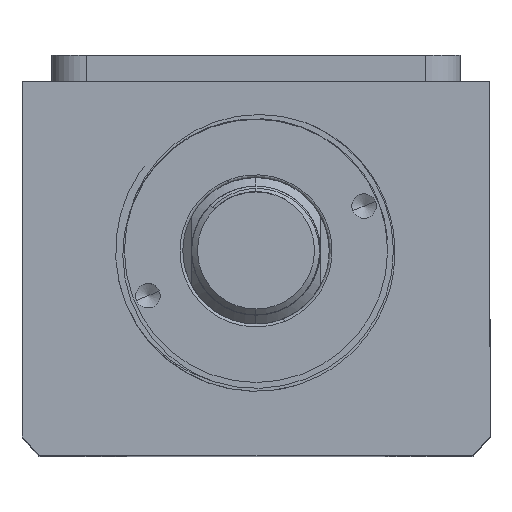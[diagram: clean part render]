
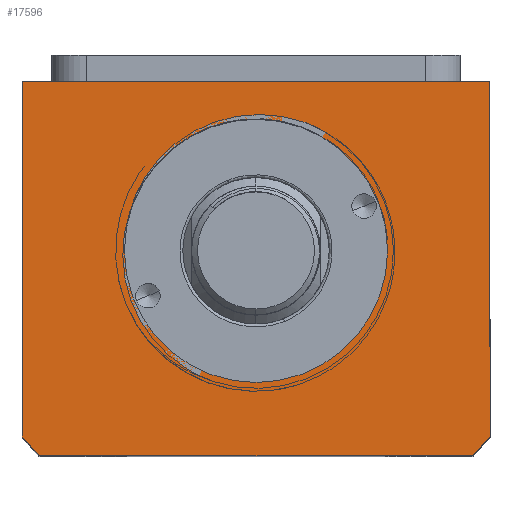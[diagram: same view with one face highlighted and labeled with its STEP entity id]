
A CAD part, top view. The second image highlights one B-rep face of the part: STEP entity #17596.
In plain terms, the highlighted planar face has unit normal (0, 0, 1).
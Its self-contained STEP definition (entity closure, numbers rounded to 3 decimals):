
#659 = EDGE_CURVE ( 'NONE', #3478, #10222, #12440, .T. ) ;
#701 = DIRECTION ( 'NONE',  ( 1., 0., 0. ) ) ;
#785 = EDGE_CURVE ( 'NONE', #12870, #3478, #1612, .T. ) ;
#846 = CARTESIAN_POINT ( 'NONE',  ( -40., -11.507, 105. ) ) ;
#859 = ORIENTED_EDGE ( 'NONE', *, *, #5107, .T. ) ;
#993 = VERTEX_POINT ( 'NONE', #846 ) ;
#1175 = DIRECTION ( 'NONE',  ( 1., 0., 0. ) ) ;
#1419 = CARTESIAN_POINT ( 'NONE',  ( 22.5, -40.507, 105. ) ) ;
#1612 = CIRCLE ( 'NONE', #9415, 51. ) ;
#2076 = FACE_BOUND ( 'NONE', #14372, .T. ) ;
#2289 = CARTESIAN_POINT ( 'NONE',  ( -22.5, -40.507, 105. ) ) ;
#2837 = CARTESIAN_POINT ( 'NONE',  ( -40., -72.145, 105. ) ) ;
#3187 = CIRCLE ( 'NONE', #15506, 22.5 ) ;
#3478 = VERTEX_POINT ( 'NONE', #17283 ) ;
#3921 = DIRECTION ( 'NONE',  ( 0., 0., 1. ) ) ;
#4295 = CARTESIAN_POINT ( 'NONE',  ( -40., -11.507, 105. ) ) ;
#4381 = EDGE_LOOP ( 'NONE', ( #6549, #859, #13801, #13037, #7507, #9711 ) ) ;
#4715 = LINE ( 'NONE', #7001, #7942 ) ;
#4841 = AXIS2_PLACEMENT_3D ( 'NONE', #13320, #5193, #14670 ) ;
#5107 = EDGE_CURVE ( 'NONE', #9937, #8421, #9530, .T. ) ;
#5193 = DIRECTION ( 'NONE',  ( 0., 0., 1. ) ) ;
#5213 = EDGE_CURVE ( 'NONE', #10222, #993, #13130, .T. ) ;
#5566 = VECTOR ( 'NONE', #11676, 1000. ) ;
#6039 = CARTESIAN_POINT ( 'NONE',  ( 40., -11.507, 105. ) ) ;
#6115 = CARTESIAN_POINT ( 'NONE',  ( 0., 0., 105. ) ) ;
#6496 = DIRECTION ( 'NONE',  ( 0., 1., 0. ) ) ;
#6549 = ORIENTED_EDGE ( 'NONE', *, *, #11757, .T. ) ;
#6816 = CARTESIAN_POINT ( 'NONE',  ( 37.094, -75.507, 105. ) ) ;
#6878 = CARTESIAN_POINT ( 'NONE',  ( 0., -40.507, 105. ) ) ;
#7001 = CARTESIAN_POINT ( 'NONE',  ( -40., -11.507, 105. ) ) ;
#7507 = ORIENTED_EDGE ( 'NONE', *, *, #659, .T. ) ;
#7942 = VECTOR ( 'NONE', #11075, 1000. ) ;
#8255 = DIRECTION ( 'NONE',  ( 1., 0., 0. ) ) ;
#8421 = VERTEX_POINT ( 'NONE', #9584 ) ;
#8853 = VECTOR ( 'NONE', #6496, 1000. ) ;
#9321 = DIRECTION ( 'NONE',  ( 0., 0., 1. ) ) ;
#9415 = AXIS2_PLACEMENT_3D ( 'NONE', #12061, #3921, #13417 ) ;
#9530 = CIRCLE ( 'NONE', #9682, 51. ) ;
#9584 = CARTESIAN_POINT ( 'NONE',  ( -37.094, -75.507, 105. ) ) ;
#9682 = AXIS2_PLACEMENT_3D ( 'NONE', #6878, #16324, #8255 ) ;
#9711 = ORIENTED_EDGE ( 'NONE', *, *, #5213, .T. ) ;
#9906 = VERTEX_POINT ( 'NONE', #1419 ) ;
#9937 = VERTEX_POINT ( 'NONE', #2837 ) ;
#10222 = VERTEX_POINT ( 'NONE', #6039 ) ;
#10526 = CARTESIAN_POINT ( 'NONE',  ( 40., -11.507, 105. ) ) ;
#11075 = DIRECTION ( 'NONE',  ( 0., -1., 0. ) ) ;
#11631 = FACE_OUTER_BOUND ( 'NONE', #4381, .T. ) ;
#11676 = DIRECTION ( 'NONE',  ( 1., 0., 0. ) ) ;
#11757 = EDGE_CURVE ( 'NONE', #993, #9937, #4715, .T. ) ;
#12061 = CARTESIAN_POINT ( 'NONE',  ( 0., -40.507, 105. ) ) ;
#12354 = LINE ( 'NONE', #13030, #5566 ) ;
#12433 = DIRECTION ( 'NONE',  ( -1., 0., 0. ) ) ;
#12440 = LINE ( 'NONE', #10526, #8853 ) ;
#12640 = EDGE_CURVE ( 'NONE', #8421, #12870, #12354, .T. ) ;
#12870 = VERTEX_POINT ( 'NONE', #6816 ) ;
#13006 = ORIENTED_EDGE ( 'NONE', *, *, #14377, .F. ) ;
#13030 = CARTESIAN_POINT ( 'NONE',  ( -40., -75.507, 105. ) ) ;
#13037 = ORIENTED_EDGE ( 'NONE', *, *, #785, .T. ) ;
#13130 = LINE ( 'NONE', #4295, #17566 ) ;
#13320 = CARTESIAN_POINT ( 'NONE',  ( 0., -40.507, 105. ) ) ;
#13417 = DIRECTION ( 'NONE',  ( 1., 0., 0. ) ) ;
#13596 = ORIENTED_EDGE ( 'NONE', *, *, #15021, .F. ) ;
#13724 = AXIS2_PLACEMENT_3D ( 'NONE', #6115, #14221, #701 ) ;
#13801 = ORIENTED_EDGE ( 'NONE', *, *, #12640, .T. ) ;
#14221 = DIRECTION ( 'NONE',  ( 0., 0., 1. ) ) ;
#14372 = EDGE_LOOP ( 'NONE', ( #13006, #13596 ) ) ;
#14377 = EDGE_CURVE ( 'NONE', #9906, #14950, #3187, .T. ) ;
#14670 = DIRECTION ( 'NONE',  ( 1., 0., 0. ) ) ;
#14950 = VERTEX_POINT ( 'NONE', #2289 ) ;
#15021 = EDGE_CURVE ( 'NONE', #14950, #9906, #16308, .T. ) ;
#15506 = AXIS2_PLACEMENT_3D ( 'NONE', #17412, #9321, #1175 ) ;
#16308 = CIRCLE ( 'NONE', #4841, 22.5 ) ;
#16324 = DIRECTION ( 'NONE',  ( 0., 0., 1. ) ) ;
#16938 = PLANE ( 'NONE',  #13724 ) ;
#17283 = CARTESIAN_POINT ( 'NONE',  ( 40., -72.145, 105. ) ) ;
#17412 = CARTESIAN_POINT ( 'NONE',  ( 0., -40.507, 105. ) ) ;
#17566 = VECTOR ( 'NONE', #12433, 1000. ) ;
#17596 = ADVANCED_FACE ( 'NONE', ( #2076, #11631 ), #16938, .T. ) ;
